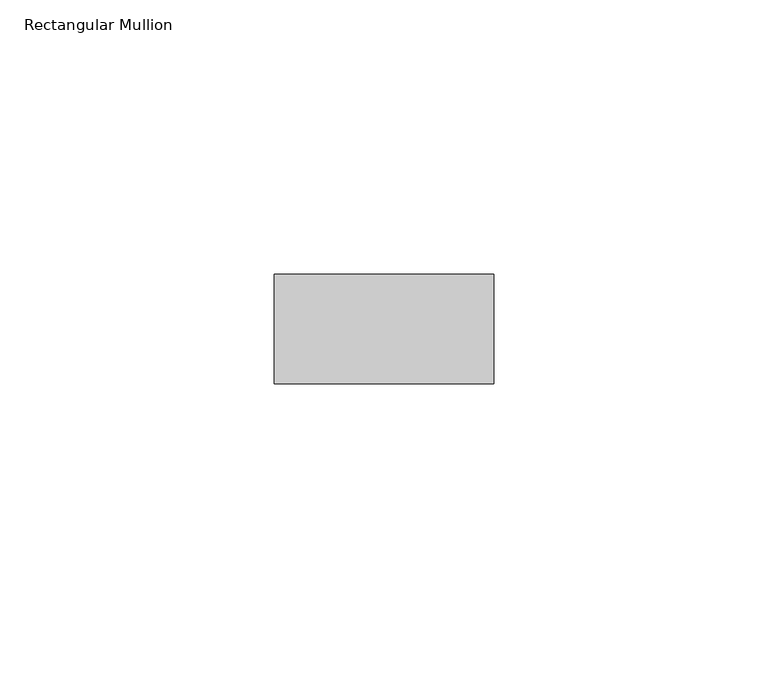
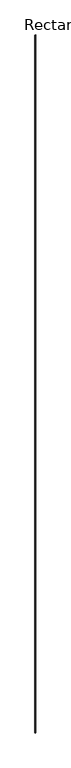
"""IFC4 building model written with IfcOpenShell, lengths in millimetres: member geometry, Rectangular Mullion : RIPA 4x2 cm."""

import ifcopenshell
import ifcopenshell.guid

model = None  # the IFC model being written
_history = None  # IfcOwnerHistory: only IFC2X3 demands one
_inside = {}  # id of a spatial element -> (the spatial element, [elements in it])
_under = {}  # id of a project, library or spatial element -> (it, [spatial elements below it])
_declared = {}  # id of a project -> (the project, [libraries it declares])
_typed = {}  # id of a type object -> (the type object, [elements of that type])
_made_of = {}  # id of a material, layer set ... -> (it, [elements and type objects made of it])


def new_model(schema):
    """Start an empty IFC model of exactly this schema.

    Asked for "IFC4X3", IfcOpenShell would pick the latest addendum, in which some entities
    have other attributes; the version numbers below select the first issue.
    IFC2X3 requires an IfcOwnerHistory on every rooted entity: one is made here for all.
    """
    global model, _history
    if schema == "IFC4X3":
        model = ifcopenshell.file(schema_version=(4, 3, 0, 0))
    else:
        model = ifcopenshell.file(schema=schema)
    _inside.clear()
    _under.clear()
    _declared.clear()
    _typed.clear()
    _made_of.clear()
    _history = None
    if model.schema == "IFC2X3":
        org = make("IfcOrganization", Name="unknown")
        user = make(
            "IfcPersonAndOrganization",
            ThePerson=make("IfcPerson", FamilyName="unknown"),
            TheOrganization=org,
        )
        app = make(
            "IfcApplication",
            ApplicationDeveloper=org,
            Version="unknown",
            ApplicationFullName="unknown",
            ApplicationIdentifier="unknown",
        )
        _history = make(
            "IfcOwnerHistory",
            OwningUser=user,
            OwningApplication=app,
            ChangeAction="ADDED",
            CreationDate=0,
        )
    return model


def make(cls, **values):
    """One entity of the class cls with the attributes given. An attribute that is None is left unset."""
    return model.create_entity(
        cls, **{name: value for name, value in values.items() if value is not None}
    )


def rooted(cls, **values):
    """An entity with a GlobalId (a new one), such as an element, a storey or a relation."""
    return make(cls, GlobalId=ifcopenshell.guid.new(), OwnerHistory=_history, **values)


def si_unit(unit_type, name, prefix=None):
    """IfcSIUnit, for example si_unit("LENGTHUNIT", "METRE", prefix="MILLI")."""
    return make("IfcSIUnit", UnitType=unit_type, Prefix=prefix, Name=name)


def assignment(units):
    """IfcUnitAssignment: the units of a project."""
    return None if units is None else make("IfcUnitAssignment", Units=units)


def point(xyz):
    """IfcCartesianPoint."""
    return None if xyz is None else make("IfcCartesianPoint", Coordinates=xyz)


def direction(xyz):
    """IfcDirection."""
    return None if xyz is None else make("IfcDirection", DirectionRatios=xyz)


def frame(location, z_axis=None, x_axis=None):
    """IfcAxis2Placement3D, a coordinate frame: its origin and axes. An axis left out is left unset."""
    return make(
        "IfcAxis2Placement3D",
        Location=point(location),
        Axis=direction(z_axis),
        RefDirection=direction(x_axis),
    )


def origin():
    """The frame at (0, 0, 0) with its axes left unset."""
    return frame((0.0, 0.0, 0.0))


def place(relative_to, where):
    """IfcLocalPlacement: puts the frame where relative to a parent placement (None: the world)."""
    return make(
        "IfcLocalPlacement", PlacementRelTo=relative_to, RelativePlacement=where
    )


def context(
    kind, dimensions, precision=None, world=None, true_north=None, identifier=None
):
    """IfcGeometricRepresentationContext, for example the 3D "Model" context."""
    return make(
        "IfcGeometricRepresentationContext",
        ContextIdentifier=identifier,
        ContextType=kind,
        CoordinateSpaceDimension=dimensions,
        Precision=precision,
        WorldCoordinateSystem=world,
        TrueNorth=true_north,
    )


def project(units=None, contexts=None):
    """IfcProject with its units and contexts."""
    return rooted(
        "IfcProject",
        Name="project",
        RepresentationContexts=contexts,
        UnitsInContext=assignment(units),
    )


def spatial(cls, under=None, at=None, **own):
    """A site, building, storey or space (cls), placed at a placement, below another one or the project."""
    s = rooted(cls, ObjectPlacement=at, **own)
    if under is not None:
        _under.setdefault(under.id(), (under, []))[1].append(s)
    return s


def polyline(points):
    """IfcPolyline through the points."""
    return make("IfcPolyline", Points=[point(p) for p in points])


def outline(outer, holes=None, kind="AREA"):
    """IfcArbitraryClosedProfileDef: a profile drawn as a closed curve; with holes, ...WithVoids."""
    if holes is None:
        return make("IfcArbitraryClosedProfileDef", ProfileType=kind, OuterCurve=outer)
    return make(
        "IfcArbitraryProfileDefWithVoids",
        ProfileType=kind,
        OuterCurve=outer,
        InnerCurves=holes,
    )


def extrude(swept, where, along, depth):
    """IfcExtrudedAreaSolid: the profile swept, set in the frame where, extruded along a direction by depth."""
    return make(
        "IfcExtrudedAreaSolid",
        SweptArea=swept,
        Position=where,
        ExtrudedDirection=direction(along),
        Depth=depth,
    )


def shape(context_of_items, identifier, shape_type, items):
    """IfcShapeRepresentation: the items that make up one representation, for example the "Body"."""
    return make(
        "IfcShapeRepresentation",
        ContextOfItems=context_of_items,
        RepresentationIdentifier=identifier,
        RepresentationType=shape_type,
        Items=items,
    )


def source(mapping_origin, context_of_items, identifier, shape_type, items):
    """IfcRepresentationMap: a shape defined once, which mapped items show again and again."""
    return make(
        "IfcRepresentationMap",
        MappingOrigin=mapping_origin,
        MappedRepresentation=shape(context_of_items, identifier, shape_type, items),
    )


def transform(
    local_origin,
    x_axis=None,
    y_axis=None,
    z_axis=None,
    scale=None,
    scale2=None,
    scale3=None,
    uniform=True,
):
    """IfcCartesianTransformationOperator3D, or its non-uniform kind. x_axis, y_axis, z_axis: its Axis1, 2, 3."""
    if uniform:
        return make(
            "IfcCartesianTransformationOperator3D",
            Axis1=direction(x_axis),
            Axis2=direction(y_axis),
            LocalOrigin=point(local_origin),
            Scale=scale,
            Axis3=direction(z_axis),
        )
    return make(
        "IfcCartesianTransformationOperator3DnonUniform",
        Axis1=direction(x_axis),
        Axis2=direction(y_axis),
        LocalOrigin=point(local_origin),
        Scale=scale,
        Axis3=direction(z_axis),
        Scale2=scale2,
        Scale3=scale3,
    )


def mapped(mapping_source, mapping_target):
    """IfcMappedItem: shows the shape of a source again, moved by a transform."""
    return make(
        "IfcMappedItem", MappingSource=mapping_source, MappingTarget=mapping_target
    )


def made_of(thing, what):
    """Note that an element or type object is made of a material, layer set ...; save() writes the relation."""
    if what is not None:
        _made_of.setdefault(what.id(), (what, []))[1].append(thing)
    return thing


def element(
    cls,
    number,
    at=None,
    inside=None,
    cuts=None,
    type_object=None,
    material=None,
    context=None,
    identifier="Body",
    shape_type=None,
    held_by="IfcProductDefinitionShape",
    body=None,
    shapes=None,
    **own,
):
    """One element of the class cls, such as IfcWall. Its Tag is "e" and its number.

    at: its placement. inside: the storey or other place that contains it. cuts: it is an
    opening in that element (IfcRelVoidsElement). A single representation is given by context,
    identifier, shape_type and body (its items); several are given by shapes. held_by: the class
    of the entity that holds the representations. save() writes the other relations.
    """
    e = rooted(cls, Tag="e%d" % number, ObjectPlacement=at, **own)
    if body is not None:
        shapes = [shape(context, identifier, shape_type, body)]
    if shapes is not None:
        e.Representation = make(held_by, Representations=shapes)
    if inside is not None:
        _inside.setdefault(inside.id(), (inside, []))[1].append(e)
    if cuts is not None:
        rooted(
            "IfcRelVoidsElement", RelatingBuildingElement=cuts, RelatedOpeningElement=e
        )
    if type_object is not None:
        _typed.setdefault(type_object.id(), (type_object, []))[1].append(e)
    return made_of(e, material)


def aggregate(whole, parts):
    """IfcRelAggregates: a whole, such as a stair, and the parts it consists of."""
    return rooted("IfcRelAggregates", RelatingObject=whole, RelatedObjects=parts)


def save(model, path):
    """Write the relations noted so far, then the file.

    IfcRelAggregates (storeys below a building ...), IfcRelContainedInSpatialStructure (elements
    in a storey), IfcRelDefinesByType, IfcRelAssociatesMaterial and IfcRelDeclares: one each for
    every whole, place, type object, material and project.
    """
    for whole, parts in _under.values():
        aggregate(whole, parts)
    for where, things in _inside.values():
        rooted(
            "IfcRelContainedInSpatialStructure",
            RelatedElements=things,
            RelatingStructure=where,
        )
    for kind, things in _typed.values():
        rooted("IfcRelDefinesByType", RelatedObjects=things, RelatingType=kind)
    for what, things in _made_of.values():
        rooted("IfcRelAssociatesMaterial", RelatedObjects=things, RelatingMaterial=what)
    for by, libraries in _declared.values():
        rooted("IfcRelDeclares", RelatingContext=by, RelatedDefinitions=libraries)
    model.write(path)


def rectangular_mullion_8cde0428(model_context):
    return source(origin(), model_context, "Body", "SweptSolid", [
        extrude(outline(polyline([(20.0, 0.0), (20.0, -20.0), (-20.0, -20.0), (-20.0, 0.0), (20.0, 0.0)])), frame((0.0, 0.0, -39261.1994849), z_axis=(0.0, 0.0, 1.0), x_axis=(1.0, 0.0, 0.0)), (0.0, 0.0, 1.0), 39261.1994849),
    ])


if __name__ == "__main__":
    model = new_model("IFC4")
    model_context = context("Model", 3, world=origin())
    ifc_project = project(units=[si_unit("LENGTHUNIT", "METRE", prefix="MILLI")], contexts=[model_context])
    site = spatial("IfcSite", under=ifc_project)
    building = spatial("IfcBuilding", under=site)
    placement = place(None, origin())
    rectangular_mullion_shape = rectangular_mullion_8cde0428(model_context)
    element("IfcMember", 1, ObjectType="Rectangular Mullion : RIPA 4x2 cm", at=placement, inside=building, context=model_context, shape_type="MappedRepresentation", body=[
        mapped(rectangular_mullion_shape, transform((0.0, 0.0, 0.0), x_axis=(1.0, 0.0, 0.0), y_axis=(0.0, 1.0, 0.0), z_axis=(0.0, 0.0, 1.0))),
    ])
    save(model, "model.ifc")
